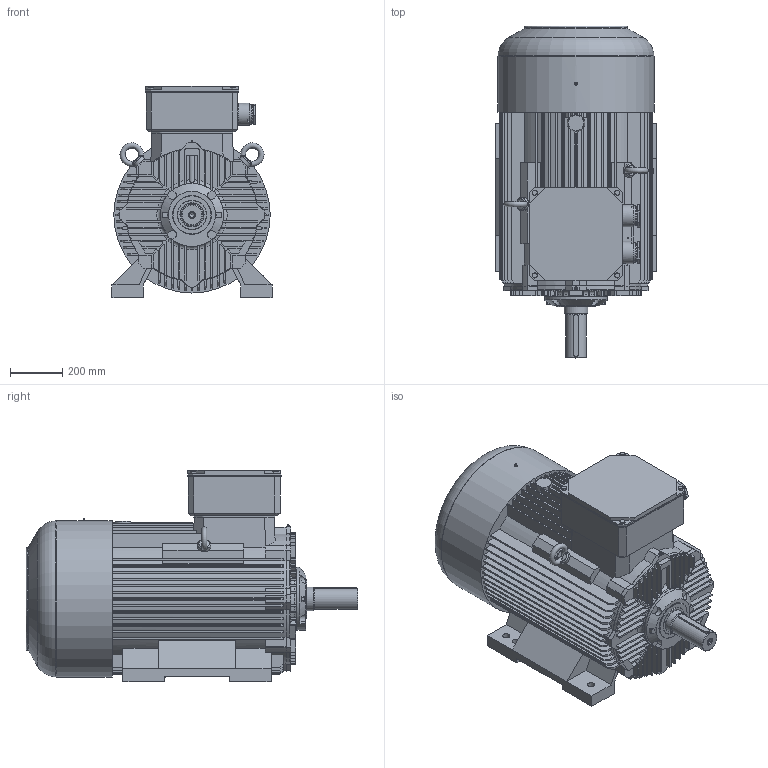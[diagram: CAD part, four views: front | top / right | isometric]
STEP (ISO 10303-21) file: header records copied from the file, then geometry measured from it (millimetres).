
FILE_DESCRIPTION( ( 'Unknown' ), '1' );
FILE_NAME( 'P:/3D_Bry³y silników skatalogowane/SIE/2SIE315/STP_2SIE315/2SIE315_S_M_4AB_6A.stp', 'Unknown', ( 'Unknown' ), ( 'Unknown' ), 'XStep 1.0', 'Unknown', ' ' );
FILE_SCHEMA( ( 'CONFIG_CONTROL_DESIGN' ) );
Length unit declared in the file: millimetre
Products named in the file (1): 1
Bounding box: 610 x 1265 x 804.5 mm (x, y, z)
Volume: 266904681.8 mm3; surface area: 6275342.5 mm2
Topology: 1 solids, 26 shells, 1338 faces, 3593 edges, 2354 vertices
Faces by surface type: plane 890, cylinder 261, cone 90, torus 81, bspline 16
Full cylindrical faces by diameter (mm): 1.6 x2, 4.917 x2, 5 x3, 10.106 x8, 13.835 x1, 16.63 x4, 17.294 x1, 19.6 x2, 20 x1, 20.752 x4, 21 x1, 28 x6, 36 x1, 50 x2, 55 x2, 57 x4, 65 x4, 70 x2, 71 x6, 72 x2, 72.752 x2, 76 x2, 79.999 x1, 85 x2, 86.5 x1, 89.5 x1, 90 x2, 99.4 x1, 100 x1, 111.399 x1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
Entity records: 49834 total; most frequent: CARTESIAN_POINT 17161, ORIENTED_EDGE 6762, DIRECTION 6587, EDGE_CURVE 3381, VERTEX_POINT 2303, AXIS2_PLACEMENT_3D 2222, LINE 2143, VECTOR 2143
